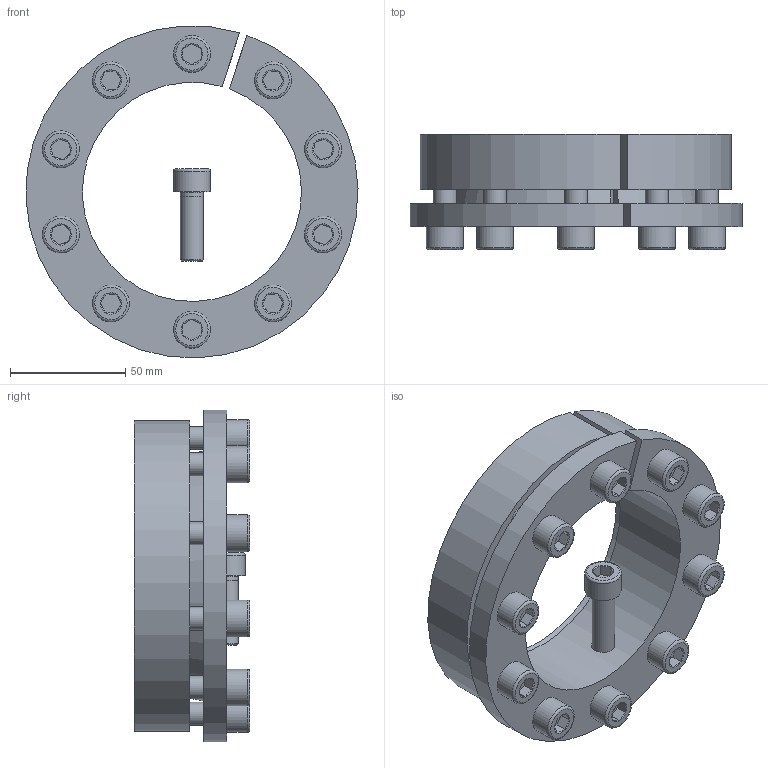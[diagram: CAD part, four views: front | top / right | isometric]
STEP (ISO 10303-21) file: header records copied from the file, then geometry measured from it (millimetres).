
FILE_DESCRIPTION( ( 'Unknown' ), '1' );
FILE_NAME( 'C:/Dokumente und Einstellungen/Sven/Desktop/homepage/cad - homepage/KBS16/KBS 16 - 95 x 135.stp', 'Unknown', ( 'Unknown' ), ( 'Unknown' ), 'XStep 1.0', 'Unknown', ' ' );
FILE_SCHEMA( ( 'automotive_design' ) );
Length unit declared in the file: millimetre
Products named in the file (3): Assem1; KBS 16 - 95 x 135; ISO EN DIN 4762 M10x30
Bounding box: 143.91 x 50 x 143.85 mm (x, y, z)
Volume: 538954.7 mm3; surface area: 154564.3 mm2
Topology: 13 solids, 13 shells, 339 faces, 673 edges, 404 vertices
Faces by surface type: plane 146, cylinder 90, cone 81, torus 22
Full cylindrical faces by diameter (mm): 9 x11, 10 x62, 16 x11
Entity records: 1978 total; most frequent: CARTESIAN_POINT 315, DIRECTION 300, ORIENTED_EDGE 210, AXIS2_PLACEMENT_3D 136, EDGE_LOOP 128, EDGE_CURVE 105, FACE_OUTER_BOUND 83, VERTEX_POINT 83
